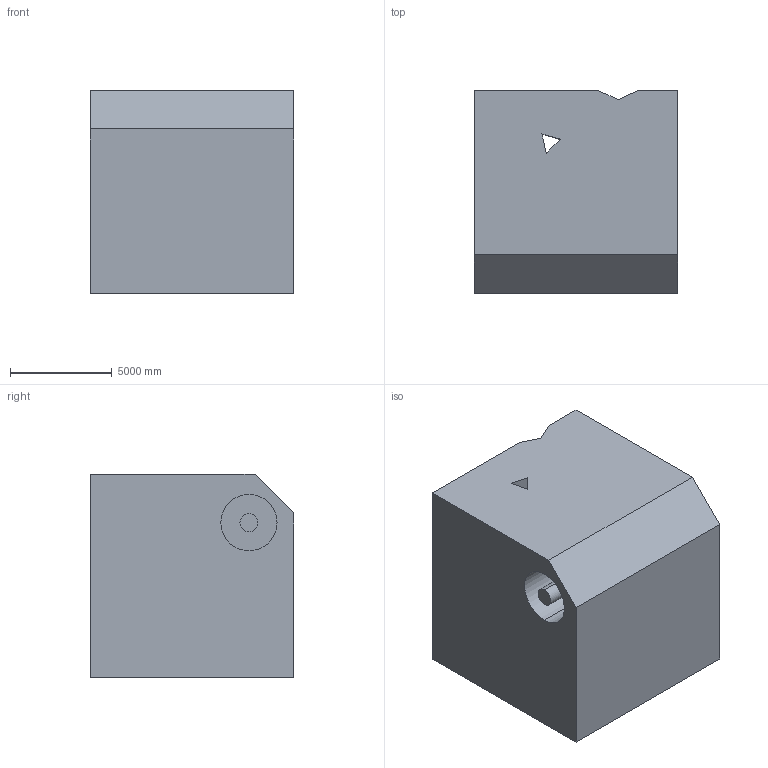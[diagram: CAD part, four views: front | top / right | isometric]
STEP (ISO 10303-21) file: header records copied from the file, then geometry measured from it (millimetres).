
FILE_DESCRIPTION (( 'STEP AP203' ), '1' );
FILE_NAME ('163.STEP', '2022-09-06T15:17:47', ( 'user' ), ( '' ), 'SwSTEP 2.0', 'SolidWorks 2021', '' );
FILE_SCHEMA (( 'CONFIG_CONTROL_DESIGN' ));
Length unit declared in the file: centimetre
Products named in the file (1): 163
Bounding box: 10000 x 10000 x 10000 mm (x, y, z)
Volume: 907069850828.3 mm3; surface area: 740655657.3 mm2
Topology: 1 solids, 1 shells, 29 faces, 69 edges, 46 vertices
Faces by surface type: plane 22, cylinder 7
Entity records: 918 total; most frequent: CARTESIAN_POINT 145, DIRECTION 143, ORIENTED_EDGE 138, EDGE_CURVE 69, LINE 55, VECTOR 55, VERTEX_POINT 46, AXIS2_PLACEMENT_3D 44
